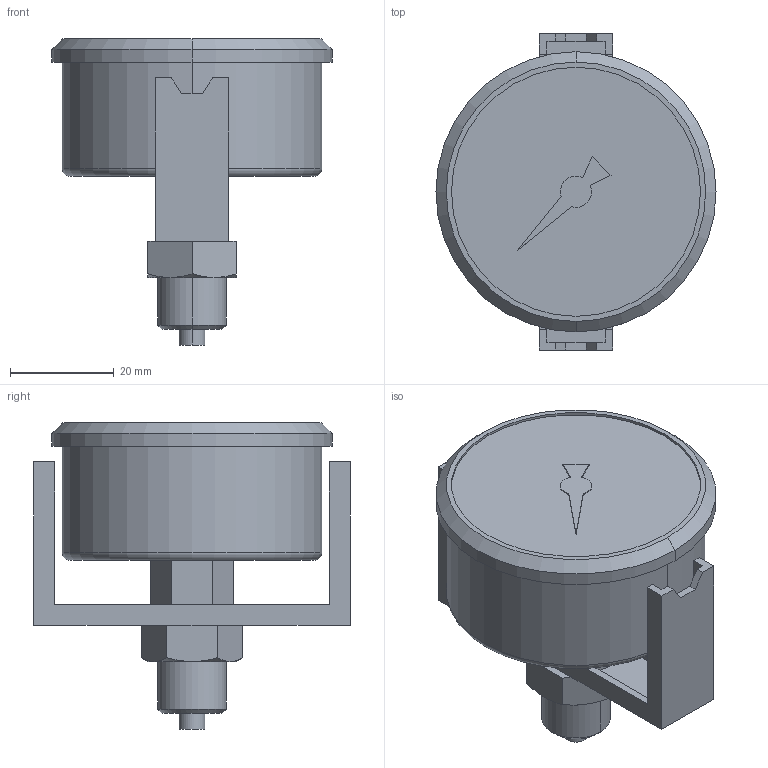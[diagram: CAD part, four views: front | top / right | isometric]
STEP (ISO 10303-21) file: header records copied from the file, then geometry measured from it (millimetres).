
FILE_DESCRIPTION((''),'2;1');
FILE_NAME('1827231032','2020-10-06T19:46:02',('GIO1HC'),(''),'CREO PARAMETRIC BY PTC INC, 2018190','CREO PARAMETRIC BY PTC INC, 2018190','');
FILE_SCHEMA(('AUTOMOTIVE_DESIGN { 1 0 10303 214 1 1 1 1 }'));
Length unit declared in the file: millimetre
Products named in the file (1): 1827231032
Bounding box: 54 x 61 x 59 mm (x, y, z)
Volume: 60701.4 mm3; surface area: 14425.8 mm2
Topology: 1 solids, 1 shells, 82 faces, 210 edges, 138 vertices
Faces by surface type: plane 56, cylinder 14, cone 10, torus 2
Entity records: 2744 total; most frequent: CARTESIAN_POINT 561, DIRECTION 422, ORIENTED_EDGE 418, EDGE_CURVE 209, VECTOR 156, LINE 156, VERTEX_POINT 136, AXIS2_PLACEMENT_3D 133
